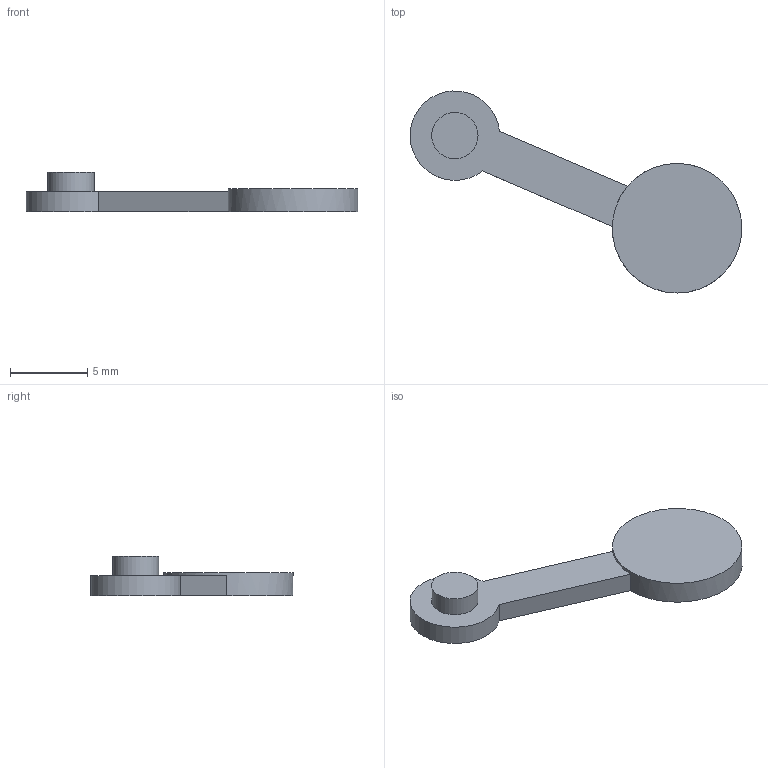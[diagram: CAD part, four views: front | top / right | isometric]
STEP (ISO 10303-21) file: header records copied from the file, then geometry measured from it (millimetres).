
FILE_DESCRIPTION(('Open CASCADE Model'),'2;1');
FILE_NAME('Open CASCADE Shape Model','2026-09-09T11:50:30',('Author'),( 'Open CASCADE'),'Open CASCADE STEP processor 7.7','Open CASCADE 7.7' ,'Unknown');
FILE_SCHEMA(('AUTOMOTIVE_DESIGN { 1 0 10303 214 1 1 1 1 }'));
Length unit declared in the file: millimetre
Products named in the file (1): Open CASCADE STEP translator 7.7 24
Bounding box: 21.5 x 13.09 x 2.55 mm (x, y, z)
Volume: 158 mm3; surface area: 303.6 mm2
Topology: 1 solids, 1 shells, 9 faces, 18 edges, 12 vertices
Faces by surface type: plane 6, cylinder 3
Full cylindrical faces by diameter (mm): 3 x1, 8.4 x1
Entity records: 482 total; most frequent: DIRECTION 80, CARTESIAN_POINT 78, ORIENTED_EDGE 36, LINE 36, VECTOR 36, PCURVE 36, DEFINITIONAL_REPRESENTATION 36, AXIS2_PLACEMENT_3D 18
